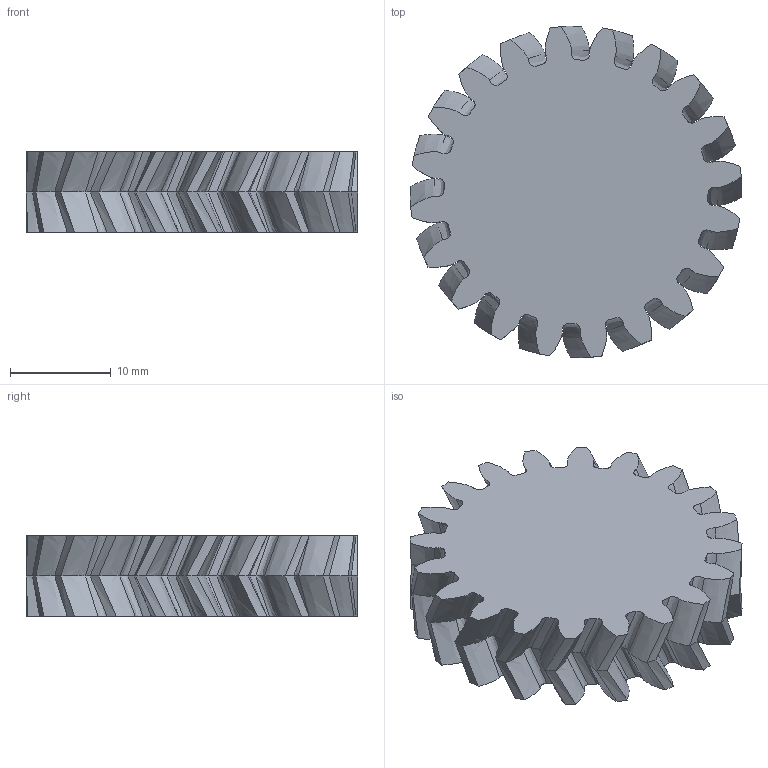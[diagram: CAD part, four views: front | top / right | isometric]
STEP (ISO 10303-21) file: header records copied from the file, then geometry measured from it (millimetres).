
FILE_DESCRIPTION(('FreeCAD Model'),'2;1');
FILE_NAME('C:/Users/germt/Documents/t-flex_models/колёса_130мм/Редуктор 6_2х_ступенчатый/Gear_M1.5_20T_shevron_25deg.step', '2021-04-26T20:04:20',('Author'),(''), 'Open CASCADE STEP processor 7.3','FreeCAD','Unknown');
FILE_SCHEMA(('AUTOMOTIVE_DESIGN { 1 0 10303 214 1 1 1 1 }'));
Length unit declared in the file: millimetre
Products named in the file (1): involutegear
Bounding box: 32.98 x 32.98 x 8 mm (x, y, z)
Volume: 5527.8 mm3; surface area: 2997.4 mm2
Topology: 1 solids, 1 shells, 242 faces, 600 edges, 360 vertices
Faces by surface type: bspline 242
Entity records: 21485 total; most frequent: CARTESIAN_POINT 13529, B_SPLINE_CURVE_WITH_KNOTS 1800, ORIENTED_EDGE 1200, PCURVE 1200, DEFINITIONAL_REPRESENTATION 1200, EDGE_CURVE 600, SURFACE_CURVE 600, VERTEX_POINT 360
